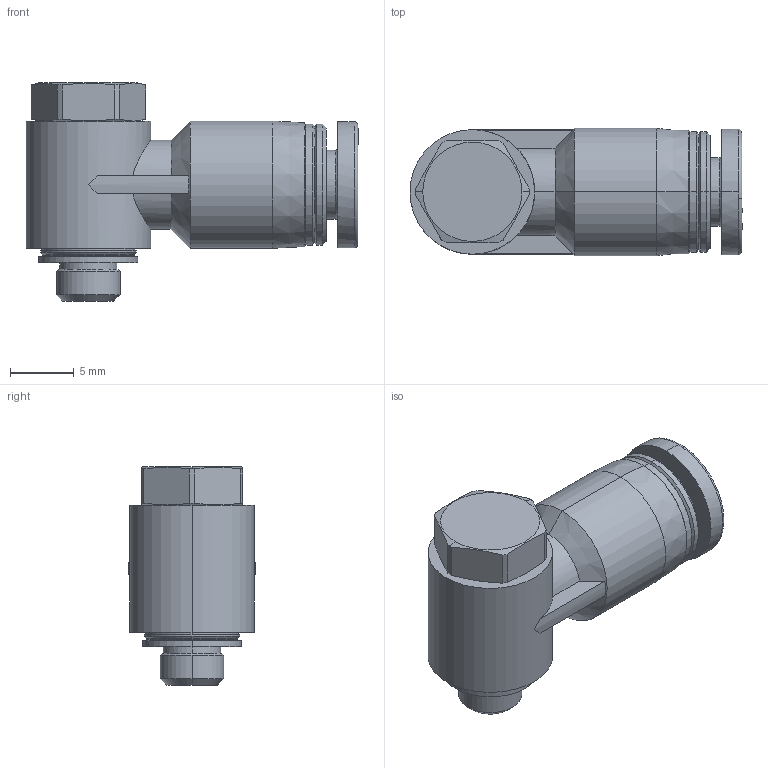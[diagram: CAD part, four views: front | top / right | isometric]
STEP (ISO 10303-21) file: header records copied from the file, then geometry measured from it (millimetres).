
FILE_DESCRIPTION (( 'STEP AP214' ), '1' );
FILE_NAME ('KQ2V04-M5A.STEP', '2023-03-06T08:29:49', ( 'Windows User' ), ( 'P R C' ), 'SwSTEP 2.0', 'SolidWorks 2019', '' );
FILE_SCHEMA (( 'AUTOMOTIVE_DESIGN' ));
Length unit declared in the file: millimetre
Products named in the file (1): KQ2V04-M5A
Bounding box: 26.1 x 10 x 17.15 mm (x, y, z)
Volume: 1978.7 mm3; surface area: 1499.4 mm2
Topology: 1 solids, 1 shells, 91 faces, 213 edges, 133 vertices
Faces by surface type: cylinder 38, cone 27, plane 22, bspline 4
Entity records: 2931 total; most frequent: CARTESIAN_POINT 805, DIRECTION 462, ORIENTED_EDGE 426, EDGE_CURVE 213, AXIS2_PLACEMENT_3D 193, VERTEX_POINT 133, CIRCLE 105, EDGE_LOOP 100
